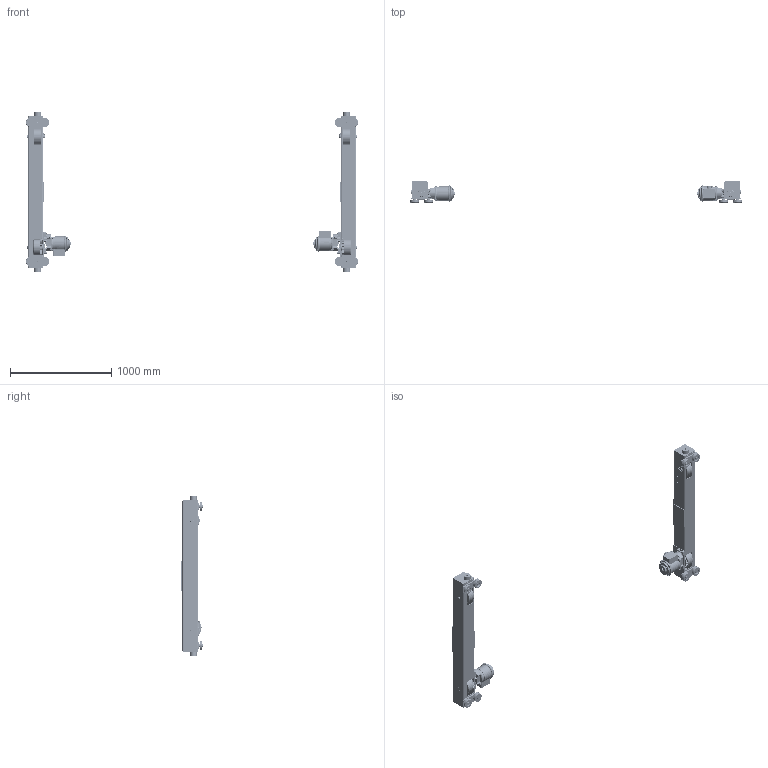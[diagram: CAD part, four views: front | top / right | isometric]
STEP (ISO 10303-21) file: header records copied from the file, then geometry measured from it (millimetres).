
FILE_DESCRIPTION (( 'STEP AP214' ), '1' );
FILE_NAME ('TMH-3-0335.STEP', '2026-08-11T18:59:58', ( '' ), ( '' ), 'SwSTEP 2.0', 'SolidWorks 2026', '' );
FILE_SCHEMA (( 'AUTOMOTIVE_DESIGN' ));
Length unit declared in the file: inch
Products named in the file (65): 9047125_B27.7M - 3AM1-23; G1JE025S9603; 6232305; 9012514_9012514; G1JM040T_ROTATED 180 DEGREES; 9012707_9012707; J1BE1-0602020_AS 1420 - M6 x 20-S; G1JE025S9301; 6240824; 6240825; N6QL210207; 62400_0245-0335 - 25# RAIL; 6240817X_6240817A; 6240813; G1JE025S9303; N6QO310E9108_N6QO3101108 DOMESTIC; 6240808; MS555010_MS555010; T600-600-004_58.125; 9093101_9093101; 9091273_9091273; G1JE025S9310; 9012711_9012711; 62398_6239801; 9798526_9798526; G1JE025S9401; 62588; 6232404; G1JE040S9609; 6240805X_6240805A; N6QO7201101; G1JE025S9707; 62399_6239901; 6240811; 9093327_9093327; TMH-3-0335; G1JM040T_NORMAL; N6QO720E91341; 6240815; 9091254_9091254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
Assembly tree (246 placements, depth 4):
  TMH-3-0335
    62400_0245-0335 - 25# RAIL
      62398_6239801
        T600-600-004_58.125
        6240824
        6240820
      6240811  x2
      6240813
      6240810
      6240808
      6240809
      T3P116030
      6240817X_6240817A  x2
        6240805X_6240805A
        6232305
    62401_0245-0335 - 25# RAIL
      62399_6239901
        T600-600-004_58.125
        6240824
        6240820
      6240811  x2
      6240813
      T3P116030
      6240809
      6240808
      6240810
      6240817X_6240817A  x2
        6240805X_6240805A
        6232305
    N6QO3101108_N6QO3101108  x8
      N6QO310E9108_N6QO3101108 DOMESTIC
      9047252_9047252
      9000605
    6232404  x8
    9047125_B27.7M - 3AM1-23  x8
    N6QL210207  x4
    9012514_9012514  x4
    9012711_9012711  x20
    9093101_9093101  x4
    6240815  x4
    6240825  x4
    9093327_9093327  x8
    N6QO7201101  x2
      N6QO720E91311
      N6QO720E91013
      9000707
      J1WS011-10060_GB_FASTENER_WASHER_SW 6
      J1BE1-0602020_AS 1420 - M6 x 20-S
      N6QO720E91341
    N6Q07201102  x2
      N6Q0720E9102
      9000707
    G1JM040T_ROTATED 180 DEGREES
      G1JE025S9303
      G1JE025S9310
      G1JE025S9401
      G1JE025S9610
      G1JE025S9604
      G1JE025S9603
      9012709_Rectangular section spring washer BS 4464 - 16 (Type B)  x12
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Bounding box: 3275.61 x 207.96 x 1573.42 mm (x, y, z)
Volume: 27782663.3 mm3; surface area: 6596476.4 mm2
Topology: 270 solids, 334 shells, 18432 faces, 46398 edges, 29392 vertices
Faces by surface type: plane 9018, cylinder 4392, cone 2038, bspline 1942, torus 844, sphere 198
Entity records: 187625 total; most frequent: CARTESIAN_POINT 77372, ORIENTED_EDGE 22220, DIRECTION 20385, EDGE_CURVE 11114, AXIS2_PLACEMENT_3D 7690, VERTEX_POINT 7105, VECTOR 5005, LINE 5005
